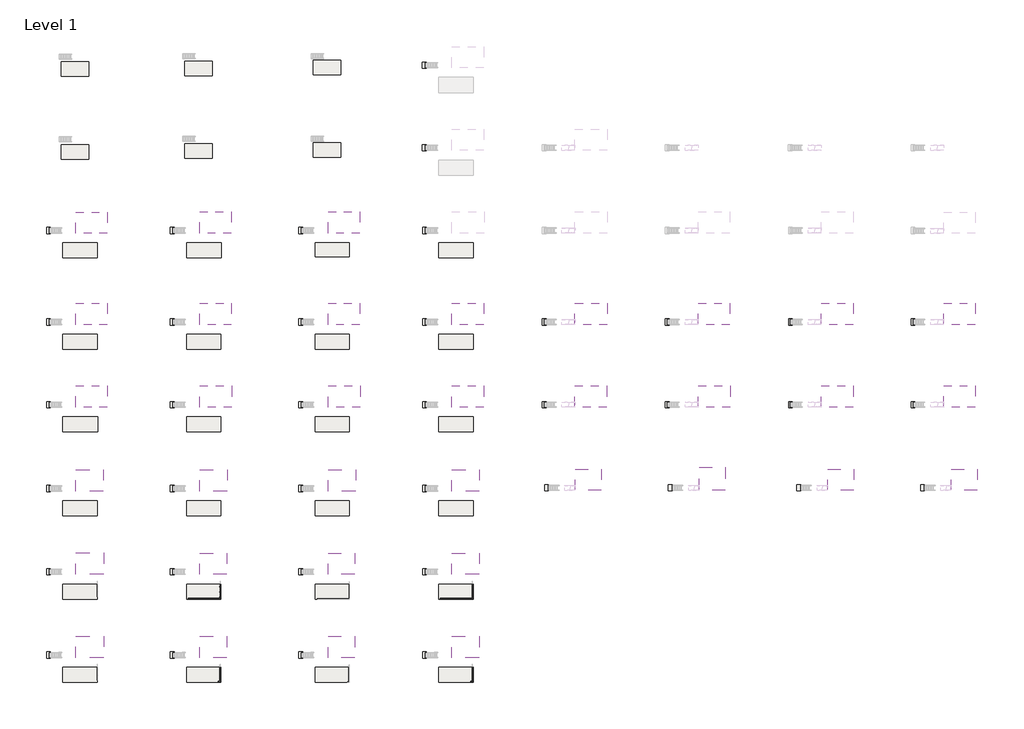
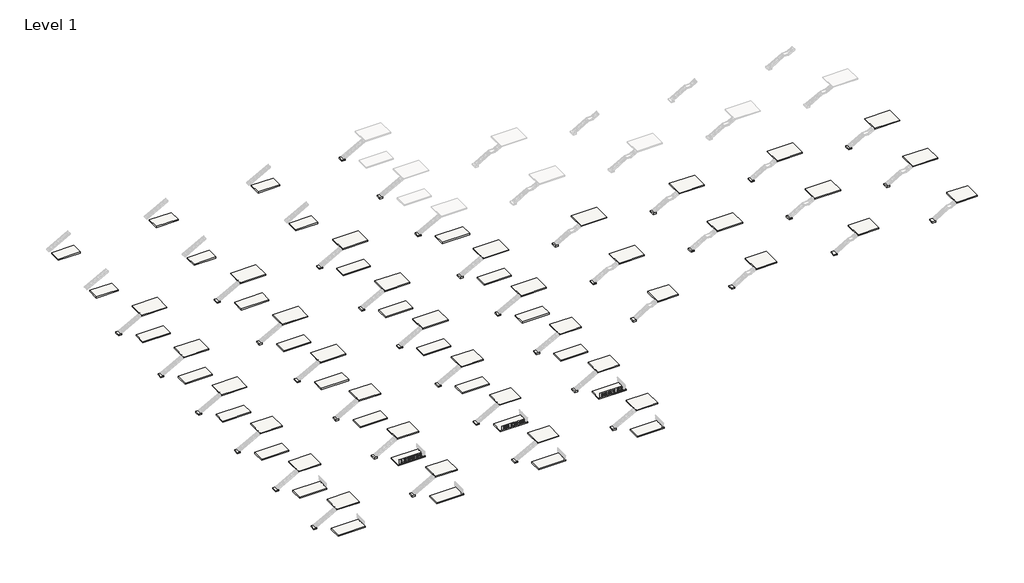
# One storey, part 1 of 21: 103 slabs.
"""IFC4 building model written with IfcOpenShell, lengths in millimetres."""

from ifc_helpers import new_model, si_unit, frame, origin, place, context, project, spatial, polyline, outline, extrude, element, save

model = new_model("IFC4")

# Units and contexts
model_context = context("Model", 3, world=origin())
ifc_project = project(units=[si_unit("LENGTHUNIT", "METRE", prefix="MILLI")], contexts=[model_context])

# Site, building, storey
site = spatial("IfcSite", under=ifc_project)
building = spatial("IfcBuilding", under=site)
storey = spatial("IfcBuildingStorey", under=building, Name="Level 1", Elevation=0.0)

# Slabs
placement = place(None, origin())
element("IfcSlab", 1, ObjectType="Generic", at=placement, inside=storey, context=model_context, shape_type="SweptSolid", body=[
    extrude(outline(polyline([(-2908.0966851, 15795.2395941), (-9164.1164794, 15795.2395941), (-9164.1164794, 19986.2395941), (-2908.0966851, 19986.2395941), (-2908.0966851, 15795.2395941)])), frame((0.0, 0.0, 2818.13), z_axis=(0.0, 0.0, 1.0), x_axis=(1.0, 0.0, 0.0)), (0.0, 0.0, 1.0), 229.87),
])
element("IfcSlab", 2, ObjectType="Generic", at=placement, inside=storey, context=model_context, shape_type="SweptSolid", body=[
    extrude(outline(polyline([(21837.4572927, 15795.2395941), (15512.8572927, 15795.2395941), (15512.8572927, 20018.7009998), (21837.4572927, 20018.7009998), (21837.4572927, 15795.2395941)])), frame((0.0, 0.0, 2818.13), z_axis=(0.0, 0.0, 1.0), x_axis=(1.0, 0.0, 0.0)), (0.0, 0.0, 1.0), 229.87),
])
element("IfcSlab", 3, ObjectType="Generic", at=placement, inside=storey, context=model_context, shape_type="SweptSolid", body=[
    extrude(outline(polyline([(47448.5953871, 15795.2395941), (41116.0572927, 15795.2395941), (41116.0572927, 20018.7009998), (47448.5953871, 20018.7009998), (47448.5953871, 15795.2395941)])), frame((0.0, 0.0, 2818.13), z_axis=(0.0, 0.0, 1.0), x_axis=(1.0, 0.0, 0.0)), (0.0, 0.0, 1.0), 229.87),
])
element("IfcSlab", 4, ObjectType="Generic", at=placement, inside=storey, context=model_context, shape_type="SweptSolid", body=[
    extrude(outline(polyline([(-3677.7164794, -35644.281782), (-9164.1164794, -35644.281782), (-9164.1164794, -31370.0203763), (-3677.7164794, -31370.0203763), (-3677.7164794, -35644.281782)])), frame((0.0, 0.0, 2818.13), z_axis=(0.0, 0.0, 1.0), x_axis=(1.0, 0.0, 0.0)), (0.0, 0.0, 1.0), 229.87),
])
element("IfcSlab", 5, ObjectType="Generic", at=placement, inside=storey, context=model_context, shape_type="SweptSolid", body=[
    extrude(outline(polyline([(46653.2578871, -35644.281782), (41116.0572927, -35644.281782), (41116.0572927, -31420.8203763), (46653.2578871, -31420.8203763), (46653.2578871, -35644.281782)])), frame((0.0, 0.0, 2818.13), z_axis=(0.0, 0.0, 1.0), x_axis=(1.0, 0.0, 0.0)), (0.0, 0.0, 1.0), 229.87),
])
element("IfcSlab", 6, ObjectType="Generic", at=placement, inside=storey, context=model_context, shape_type="SweptSolid", body=[
    extrude(outline(polyline([(20999.2572927, -35644.281782), (15512.8572927, -35644.281782), (15512.8572927, -31420.8203763), (20999.2572927, -31420.8203763), (20999.2572927, -35644.281782)])), frame((0.0, 0.0, 2818.13), z_axis=(0.0, 0.0, 1.0), x_axis=(1.0, 0.0, 0.0)), (0.0, 0.0, 1.0), 229.87),
])
element("IfcSlab", 7, ObjectType="Generic", at=placement, inside=storey, context=model_context, shape_type="SweptSolid", body=[
    extrude(outline(polyline([(-2909.3666851, -2451.5855758), (-9164.1164794, -2451.5855758), (-9164.1164794, 1816.6052299), (-2909.3666851, 1816.6052299), (-2909.3666851, -2451.5855758)])), frame((0.0, 0.0, 2818.13), z_axis=(0.0, 0.0, 1.0), x_axis=(1.0, 0.0, 0.0)), (0.0, 0.0, 1.0), 229.87),
])
element("IfcSlab", 8, ObjectType="Generic", at=placement, inside=storey, context=model_context, shape_type="SweptSolid", body=[
    extrude(outline(polyline([(47453.3572927, -2451.5855758), (41116.0572927, -2451.5855758), (41116.0572927, 1771.8758299), (47453.3572927, 1771.8758299), (47453.3572927, -2451.5855758)])), frame((0.0, 0.0, 2818.13), z_axis=(0.0, 0.0, 1.0), x_axis=(1.0, 0.0, 0.0)), (0.0, 0.0, 1.0), 229.87),
])
element("IfcSlab", 9, ObjectType="Generic", at=placement, inside=storey, context=model_context, shape_type="SweptSolid", body=[
    extrude(outline(polyline([(21862.8572927, -2451.5855758), (15512.8572927, -2451.5855758), (15512.8572927, 1771.8758299), (21862.8572927, 1771.8758299), (21862.8572927, -2451.5855758)])), frame((0.0, 0.0, 2818.13), z_axis=(0.0, 0.0, 1.0), x_axis=(1.0, 0.0, 0.0)), (0.0, 0.0, 1.0), 229.87),
])
element("IfcSlab", 10, ObjectType="Generic", at=placement, inside=storey, context=model_context, shape_type="SweptSolid", body=[
    extrude(outline(polyline([(-2909.3666851, -18919.4990002), (-9164.1164794, -18919.4990002), (-9164.1164794, -14651.3081945), (-2909.3666851, -14651.3081945), (-2909.3666851, -18919.4990002)])), frame((0.0, 0.0, 2818.13), z_axis=(0.0, 0.0, 1.0), x_axis=(1.0, 0.0, 0.0)), (0.0, 0.0, 1.0), 229.87),
])
element("IfcSlab", 11, ObjectType="Generic", at=placement, inside=storey, context=model_context, shape_type="SweptSolid", body=[
    extrude(outline(polyline([(47516.8572927, -18919.4990002), (41116.0572927, -18919.4990002), (41116.0572927, -14696.0375945), (47516.8572927, -14696.0375945), (47516.8572927, -18919.4990002)])), frame((0.0, 0.0, 2818.13), z_axis=(0.0, 0.0, 1.0), x_axis=(1.0, 0.0, 0.0)), (0.0, 0.0, 1.0), 229.87),
])
element("IfcSlab", 12, ObjectType="Generic", at=placement, inside=storey, context=model_context, shape_type="SweptSolid", body=[
    extrude(outline(polyline([(21913.6572927, -18919.4990002), (15512.8572927, -18919.4990002), (15512.8572927, -14696.0375945), (21913.6572927, -14696.0375945), (21913.6572927, -18919.4990002)])), frame((0.0, 0.0, 2818.13), z_axis=(0.0, 0.0, 1.0), x_axis=(1.0, 0.0, 0.0)), (0.0, 0.0, 1.0), 229.87),
])
element("IfcSlab", 13, ObjectType="Generic", at=placement, inside=storey, context=model_context, shape_type="SweptSolid", body=[
    extrude(outline(polyline([(-3630.629515, -52244.4426165), (-9164.1164794, -52244.4426165), (-9164.1164794, -47976.2518108), (-3630.629515, -47976.2518108), (-3630.629515, -52244.4426165)])), frame((0.0, 0.0, 2818.13), z_axis=(0.0, 0.0, 1.0), x_axis=(1.0, 0.0, 0.0)), (0.0, 0.0, 1.0), 229.87),
])
element("IfcSlab", 14, ObjectType="Generic", at=placement, inside=storey, context=model_context, shape_type="SweptSolid", body=[
    extrude(outline(polyline([(46419.9118702, -52244.4426165), (41116.0572927, -52244.4426165), (41116.0572927, -48020.9812108), (46419.9118702, -48020.9812108), (46419.9118702, -52244.4426165)])), frame((0.0, 0.0, 2818.13), z_axis=(0.0, 0.0, 1.0), x_axis=(1.0, 0.0, 0.0)), (0.0, 0.0, 1.0), 229.87),
])
element("IfcSlab", 15, ObjectType="Generic", at=placement, inside=storey, context=model_context, shape_type="SweptSolid", body=[
    extrude(outline(polyline([(20931.0118702, -52244.4426165), (15512.8572927, -52244.4426165), (15512.8572927, -48020.9812108), (20931.0118702, -48020.9812108), (20931.0118702, -52244.4426165)])), frame((0.0, 0.0, 2818.13), z_axis=(0.0, 0.0, 1.0), x_axis=(1.0, 0.0, 0.0)), (0.0, 0.0, 1.0), 229.87),
])
element("IfcSlab", 16, ObjectType="Generic", at=placement, inside=storey, context=model_context, shape_type="SweptSolid", body=[
    extrude(outline(polyline([(71279.4310647, -35644.281782), (65793.0310647, -35644.281782), (65793.0310647, -31420.8203763), (71279.4310647, -31420.8203763), (71279.4310647, -35644.281782)])), frame((0.0, 0.0, 2818.13), z_axis=(0.0, 0.0, 1.0), x_axis=(1.0, 0.0, 0.0)), (0.0, 0.0, 1.0), 229.87),
])
element("IfcSlab", 17, ObjectType="Generic", at=placement, inside=storey, context=model_context, shape_type="SweptSolid", body=[
    extrude(outline(polyline([(72193.8310647, -2451.5855758), (65793.0310647, -2451.5855758), (65793.0310647, 1771.8758299), (72193.8310647, 1771.8758299), (72193.8310647, -2451.5855758)])), frame((0.0, 0.0, 2818.13), z_axis=(0.0, 0.0, 1.0), x_axis=(1.0, 0.0, 0.0)), (0.0, 0.0, 1.0), 229.87),
])
element("IfcSlab", 18, ObjectType="Generic", at=placement, inside=storey, context=model_context, shape_type="SweptSolid", body=[
    extrude(outline(polyline([(72168.4310647, -18919.4990002), (65793.0310647, -18919.4990002), (65793.0310647, -14696.0375945), (72168.4310647, -14696.0375945), (72168.4310647, -18919.4990002)])), frame((0.0, 0.0, 2818.13), z_axis=(0.0, 0.0, 1.0), x_axis=(1.0, 0.0, 0.0)), (0.0, 0.0, 1.0), 229.87),
])
element("IfcSlab", 19, ObjectType="Generic", at=placement, inside=storey, context=model_context, shape_type="SweptSolid", body=[
    extrude(outline(polyline([(71209.5810647, -52244.4426165), (65793.0310647, -52244.4426165), (65793.0310647, -48020.9812108), (71209.5810647, -48020.9812108), (71209.5810647, -52244.4426165)])), frame((0.0, 0.0, 2818.13), z_axis=(0.0, 0.0, 1.0), x_axis=(1.0, 0.0, 0.0)), (0.0, 0.0, 1.0), 229.87),
])
element("IfcSlab", 20, ObjectType="Generic", at=placement, inside=storey, context=model_context, shape_type="SweptSolid", body=[
    extrude(outline(polyline([(-3630.629515, -68866.2904155), (-9164.1164794, -68866.2904155), (-9164.1164794, -64576.4126454), (-3630.629515, -64576.4126454), (-3630.629515, -68866.2904155)])), frame((0.0, 0.0, 2818.13), z_axis=(0.0, 0.0, 1.0), x_axis=(1.0, 0.0, 0.0)), (0.0, 0.0, 1.0), 229.87),
])
element("IfcSlab", 21, ObjectType="Generic", at=placement, inside=storey, context=model_context, shape_type="SweptSolid", body=[
    extrude(outline(polyline([(46419.9118702, -68844.6034511), (41116.0572927, -68844.6034511), (41116.0572927, -64621.1420454), (46419.9118702, -64621.1420454), (46419.9118702, -68844.6034511)])), frame((0.0, 0.0, 2818.13), z_axis=(0.0, 0.0, 1.0), x_axis=(1.0, 0.0, 0.0)), (0.0, 0.0, 1.0), 229.87),
])
element("IfcSlab", 22, ObjectType="Generic", at=placement, inside=storey, context=model_context, shape_type="SweptSolid", body=[
    extrude(outline(polyline([(20931.0118702, -68844.6034511), (15512.8572927, -68844.6034511), (15512.8572927, -64621.1420454), (20931.0118702, -64621.1420454), (20931.0118702, -68844.6034511)])), frame((0.0, 0.0, 2818.13), z_axis=(0.0, 0.0, 1.0), x_axis=(1.0, 0.0, 0.0)), (0.0, 0.0, 1.0), 229.87),
])
element("IfcSlab", 23, ObjectType="Generic", at=placement, inside=storey, context=model_context, shape_type="SweptSolid", body=[
    extrude(outline(polyline([(71209.5810647, -68844.6034511), (65793.0310647, -68844.6034511), (65793.0310647, -64621.1420454), (71209.5810647, -64621.1420454), (71209.5810647, -68844.6034511)])), frame((0.0, 0.0, 2818.13), z_axis=(0.0, 0.0, 1.0), x_axis=(1.0, 0.0, 0.0)), (0.0, 0.0, 1.0), 229.87),
])
element("IfcSlab", 24, ObjectType="Generic", at=placement, inside=storey, context=model_context, shape_type="SweptSolid", body=[
    extrude(outline(polyline([(96743.8048368, -2451.5855758), (90343.0048368, -2451.5855758), (90343.0048368, 1771.8758299), (96743.8048368, 1771.8758299), (96743.8048368, -2451.5855758)])), frame((0.0, 0.0, 2818.13), z_axis=(0.0, 0.0, 1.0), x_axis=(1.0, 0.0, 0.0)), (0.0, 0.0, 1.0), 229.87),
])
element("IfcSlab", 25, ObjectType="Generic", at=placement, inside=storey, context=model_context, shape_type="SweptSolid", body=[
    extrude(outline(polyline([(96718.4048368, -18919.4990002), (90343.0048368, -18919.4990002), (90343.0048368, -14696.0375945), (96718.4048368, -14696.0375945), (96718.4048368, -18919.4990002)])), frame((0.0, 0.0, 2818.13), z_axis=(0.0, 0.0, 1.0), x_axis=(1.0, 0.0, 0.0)), (0.0, 0.0, 1.0), 229.87),
])
element("IfcSlab", 26, ObjectType="Generic", at=placement, inside=storey, context=model_context, shape_type="SweptSolid", body=[
    extrude(outline(polyline([(121230.2786089, -2451.5855758), (114892.9786089, -2451.5855758), (114892.9786089, 1771.8758299), (121230.2786089, 1771.8758299), (121230.2786089, -2451.5855758)])), frame((0.0, 0.0, 2818.13), z_axis=(0.0, 0.0, 1.0), x_axis=(1.0, 0.0, 0.0)), (0.0, 0.0, 1.0), 229.87),
])
element("IfcSlab", 27, ObjectType="Generic", at=placement, inside=storey, context=model_context, shape_type="SweptSolid", body=[
    extrude(outline(polyline([(121293.7786089, -18919.4990002), (114892.9786089, -18919.4990002), (114892.9786089, -14696.0375945), (121293.7786089, -14696.0375945), (121293.7786089, -18919.4990002)])), frame((0.0, 0.0, 2818.13), z_axis=(0.0, 0.0, 1.0), x_axis=(1.0, 0.0, 0.0)), (0.0, 0.0, 1.0), 229.87),
])
element("IfcSlab", 28, ObjectType="Generic", at=placement, inside=storey, context=model_context, shape_type="SweptSolid", body=[
    extrude(outline(polyline([(145792.9523809, -2451.5855758), (139442.9523809, -2451.5855758), (139442.9523809, 1771.8758299), (145792.9523809, 1771.8758299), (145792.9523809, -2451.5855758)])), frame((0.0, 0.0, 2818.13), z_axis=(0.0, 0.0, 1.0), x_axis=(1.0, 0.0, 0.0)), (0.0, 0.0, 1.0), 229.87),
])
element("IfcSlab", 29, ObjectType="Generic", at=placement, inside=storey, context=model_context, shape_type="SweptSolid", body=[
    extrude(outline(polyline([(145843.7523809, -18919.4990002), (139442.9523809, -18919.4990002), (139442.9523809, -14696.0375945), (145843.7523809, -14696.0375945), (145843.7523809, -18919.4990002)])), frame((0.0, 0.0, 2818.13), z_axis=(0.0, 0.0, 1.0), x_axis=(1.0, 0.0, 0.0)), (0.0, 0.0, 1.0), 229.87),
])
element("IfcSlab", 30, ObjectType="Generic", at=placement, inside=storey, context=model_context, shape_type="SweptSolid", body=[
    extrude(outline(polyline([(170143.5809011, -2451.5855758), (163888.8311068, -2451.5855758), (163888.8311068, 1816.6052299), (170143.5809011, 1816.6052299), (170143.5809011, -2451.5855758)])), frame((0.0, 0.0, 2818.13), z_axis=(0.0, 0.0, 1.0), x_axis=(1.0, 0.0, 0.0)), (0.0, 0.0, 1.0), 229.87),
])
element("IfcSlab", 31, ObjectType="Generic", at=placement, inside=storey, context=model_context, shape_type="SweptSolid", body=[
    extrude(outline(polyline([(170143.5809011, -18919.4990002), (163888.8311068, -18919.4990002), (163888.8311068, -14651.3081945), (170143.5809011, -14651.3081945), (170143.5809011, -18919.4990002)])), frame((0.0, 0.0, 2818.13), z_axis=(0.0, 0.0, 1.0), x_axis=(1.0, 0.0, 0.0)), (0.0, 0.0, 1.0), 229.87),
])
element("IfcSlab", 32, ObjectType="Generic - 7 3/4\"", at=placement, inside=storey, context=model_context, shape_type="SweptSolid", body=[
    extrude(outline(polyline([(-4933.3882474, 10855.2487388), (-11740.5882474, 10855.2487388), (-11740.5882474, 13852.4487388), (-4933.3882474, 13852.4487388), (-4933.3882474, 10855.2487388)])), frame((0.0, 0.0, -296.7736), z_axis=(0.0, 0.0, 1.0), x_axis=(1.0, 0.0, 0.0)), (0.0, 0.0, 1.0), 296.7736),
])
element("IfcSlab", 33, ObjectType="Generic - 7 3/4\"", at=placement, inside=storey, context=model_context, shape_type="SweptSolid", body=[
    extrude(outline(polyline([(19819.7855247, 10855.2487388), (12936.3855247, 10855.2487388), (12936.3855247, 13852.4487388), (19819.7855247, 13852.4487388), (19819.7855247, 10855.2487388)])), frame((0.0, 0.0, -296.7736), z_axis=(0.0, 0.0, 1.0), x_axis=(1.0, 0.0, 0.0)), (0.0, 0.0, 1.0), 296.7736),
])
element("IfcSlab", 34, ObjectType="Generic - 7 3/4\"", at=placement, inside=storey, context=model_context, shape_type="SweptSolid", body=[
    extrude(outline(polyline([(45346.7861192, 11058.4481443), (38539.5855247, 11058.4481443), (38539.5855247, 13852.4487388), (45346.7861192, 13852.4487388), (45346.7861192, 11058.4481443)])), frame((0.0, 0.0, -296.7736), z_axis=(0.0, 0.0, 1.0), x_axis=(1.0, 0.0, 0.0)), (0.0, 0.0, 1.0), 296.7736),
])
element("IfcSlab", 35, ObjectType="Generic - 7 3/4\"", at=placement, inside=storey, context=model_context, shape_type="SweptSolid", body=[
    extrude(outline(polyline([(-4933.3882474, -40584.2726373), (-11740.5882474, -40584.2726373), (-11740.5882474, -37587.0726373), (-4933.3882474, -37587.0726373), (-4933.3882474, -40584.2726373)])), frame((0.0, 0.0, -296.7736), z_axis=(0.0, 0.0, 1.0), x_axis=(1.0, 0.0, 0.0)), (0.0, 0.0, 1.0), 296.7736),
])
element("IfcSlab", 36, ObjectType="Generic - 7 3/4\"", at=placement, inside=storey, context=model_context, shape_type="SweptSolid", body=[
    extrude(outline(polyline([(45346.7855247, -40584.2726373), (38539.5855247, -40584.2726373), (38539.5855247, -37587.0726373), (45346.7855247, -37587.0726373), (45346.7855247, -40584.2726373)])), frame((0.0, 0.0, -296.7736), z_axis=(0.0, 0.0, 1.0), x_axis=(1.0, 0.0, 0.0)), (0.0, 0.0, 1.0), 296.7736),
])
element("IfcSlab", 37, ObjectType="Generic - 7 3/4\"", at=placement, inside=storey, context=model_context, shape_type="SweptSolid", body=[
    extrude(outline(polyline([(19743.5855247, -40584.2726373), (12936.3855247, -40584.2726373), (12936.3855247, -37587.0726373), (19743.5855247, -37587.0726373), (19743.5855247, -40584.2726373)])), frame((0.0, 0.0, -296.7736), z_axis=(0.0, 0.0, 1.0), x_axis=(1.0, 0.0, 0.0)), (0.0, 0.0, 1.0), 296.7736),
])
element("IfcSlab", 38, ObjectType="Generic - 7 3/4\"", at=placement, inside=storey, context=model_context, shape_type="SweptSolid", body=[
    extrude(outline(polyline([(-4933.3882474, -7391.5764311), (-11740.5882474, -7391.5764311), (-11740.5882474, -4394.3764311), (-4933.3882474, -4394.3764311), (-4933.3882474, -7391.5764311)])), frame((0.0, 0.0, -296.7736), z_axis=(0.0, 0.0, 1.0), x_axis=(1.0, 0.0, 0.0)), (0.0, 0.0, 1.0), 296.7736),
])
element("IfcSlab", 39, ObjectType="Generic - 7 3/4\"", at=placement, inside=storey, context=model_context, shape_type="SweptSolid", body=[
    extrude(outline(polyline([(45346.7855247, -7391.5764311), (38539.5855247, -7391.5764311), (38539.5855247, -4394.3764311), (45346.7855247, -4394.3764311), (45346.7855247, -7391.5764311)])), frame((0.0, 0.0, -296.7736), z_axis=(0.0, 0.0, 1.0), x_axis=(1.0, 0.0, 0.0)), (0.0, 0.0, 1.0), 296.7736),
])
element("IfcSlab", 40, ObjectType="Generic - 7 3/4\"", at=placement, inside=storey, context=model_context, shape_type="SweptSolid", body=[
    extrude(outline(polyline([(19743.5855247, -7391.5764311), (12936.3855247, -7391.5764311), (12936.3855247, -4394.3764311), (19743.5855247, -4394.3764311), (19743.5855247, -7391.5764311)])), frame((0.0, 0.0, -296.7736), z_axis=(0.0, 0.0, 1.0), x_axis=(1.0, 0.0, 0.0)), (0.0, 0.0, 1.0), 296.7736),
])
element("IfcSlab", 41, ObjectType="Generic - 7 3/4\"", at=placement, inside=storey, context=model_context, shape_type="SweptSolid", body=[
    extrude(outline(polyline([(-4831.7884531, -23859.4898555), (-11740.5882474, -23859.4898555), (-11740.5882474, -20862.2898555), (-4831.7884531, -20862.2898555), (-4831.7884531, -23859.4898555)])), frame((0.0, 0.0, -296.7736), z_axis=(0.0, 0.0, 1.0), x_axis=(1.0, 0.0, 0.0)), (0.0, 0.0, 1.0), 296.7736),
])
element("IfcSlab", 42, ObjectType="Generic - 7 3/4\"", at=placement, inside=storey, context=model_context, shape_type="SweptSolid", body=[
    extrude(outline(polyline([(45346.7855247, -23859.4898555), (38539.5855247, -23859.4898555), (38539.5855247, -20862.2898555), (45346.7855247, -20862.2898555), (45346.7855247, -23859.4898555)])), frame((0.0, 0.0, -296.7736), z_axis=(0.0, 0.0, 1.0), x_axis=(1.0, 0.0, 0.0)), (0.0, 0.0, 1.0), 296.7736),
])
element("IfcSlab", 43, ObjectType="Generic - 7 3/4\"", at=placement, inside=storey, context=model_context, shape_type="SweptSolid", body=[
    extrude(outline(polyline([(19743.5855247, -23859.4898555), (12936.3855247, -23859.4898555), (12936.3855247, -20862.2898555), (19743.5855247, -20862.2898555), (19743.5855247, -23859.4898555)])), frame((0.0, 0.0, -296.7736), z_axis=(0.0, 0.0, 1.0), x_axis=(1.0, 0.0, 0.0)), (0.0, 0.0, 1.0), 296.7736),
])
element("IfcSlab", 44, ObjectType="Generic - 7 3/4\"", at=placement, inside=storey, context=model_context, shape_type="SweptSolid", body=[
    extrude(outline(polyline([(-4933.3882474, -57184.4334719), (-11740.5882474, -57184.4334719), (-11740.5882474, -54187.2334719), (-4933.3882474, -54187.2334719), (-4933.3882474, -57184.4334719)])), frame((0.0, 0.0, -296.7736), z_axis=(0.0, 0.0, 1.0), x_axis=(1.0, 0.0, 0.0)), (0.0, 0.0, 1.0), 296.7736),
])
element("IfcSlab", 45, ObjectType="Generic - 7 3/4\"", at=placement, inside=storey, context=model_context, shape_type="SweptSolid", body=[
    extrude(outline(polyline([(45346.7855247, -57184.4334719), (38539.5855247, -57184.4334719), (38539.5855247, -54187.2334719), (45346.7855247, -54187.2334719), (45346.7855247, -57184.4334719)])), frame((0.0, 0.0, -296.7736), z_axis=(0.0, 0.0, 1.0), x_axis=(1.0, 0.0, 0.0)), (0.0, 0.0, 1.0), 296.7736),
])
element("IfcSlab", 46, ObjectType="Generic - 7 3/4\"", at=placement, inside=storey, context=model_context, shape_type="SweptSolid", body=[
    extrude(outline(polyline([(19743.5855247, -57184.4334719), (12936.3855247, -57184.4334719), (12936.3855247, -54187.2334719), (19743.5855247, -54187.2334719), (19743.5855247, -57184.4334719)])), frame((0.0, 0.0, -296.7736), z_axis=(0.0, 0.0, 1.0), x_axis=(1.0, 0.0, 0.0)), (0.0, 0.0, 1.0), 296.7736),
])
element("IfcSlab", 47, ObjectType="Generic - 7 3/4\"", at=placement, inside=storey, context=model_context, shape_type="SweptSolid", body=[
    extrude(outline(polyline([(70099.9592968, 10848.2093665), (63216.5592968, 10848.2093665), (63216.5592968, 13852.4487388), (70099.9592968, 13852.4487388), (70099.9592968, 10848.2093665)])), frame((0.0, 0.0, -296.7736), z_axis=(0.0, 0.0, 1.0), x_axis=(1.0, 0.0, 0.0)), (0.0, 0.0, 1.0), 296.7736),
])
element("IfcSlab", 48, ObjectType="Generic - 7 3/4\"", at=placement, inside=storey, context=model_context, shape_type="SweptSolid", body=[
    extrude(outline(polyline([(70023.7592968, -40584.2726373), (63216.5592968, -40584.2726373), (63216.5592968, -37587.0726373), (70023.7592968, -37587.0726373), (70023.7592968, -40584.2726373)])), frame((0.0, 0.0, -296.7736), z_axis=(0.0, 0.0, 1.0), x_axis=(1.0, 0.0, 0.0)), (0.0, 0.0, 1.0), 296.7736),
])
element("IfcSlab", 49, ObjectType="Generic - 7 3/4\"", at=placement, inside=storey, context=model_context, shape_type="SweptSolid", body=[
    extrude(outline(polyline([(70023.7592968, -7391.5764311), (63216.5592968, -7391.5764311), (63216.5592968, -4394.3764311), (70023.7592968, -4394.3764311), (70023.7592968, -7391.5764311)])), frame((0.0, 0.0, -296.7736), z_axis=(0.0, 0.0, 1.0), x_axis=(1.0, 0.0, 0.0)), (0.0, 0.0, 1.0), 296.7736),
])
element("IfcSlab", 50, ObjectType="Generic - 7 3/4\"", at=placement, inside=storey, context=model_context, shape_type="SweptSolid", body=[
    extrude(outline(polyline([(70023.7592968, -23859.4898555), (63216.5592968, -23859.4898555), (63216.5592968, -20862.2898555), (70023.7592968, -20862.2898555), (70023.7592968, -23859.4898555)])), frame((0.0, 0.0, -296.7736), z_axis=(0.0, 0.0, 1.0), x_axis=(1.0, 0.0, 0.0)), (0.0, 0.0, 1.0), 296.7736),
])
element("IfcSlab", 51, ObjectType="Generic - 7 3/4\"", at=placement, inside=storey, context=model_context, shape_type="SweptSolid", body=[
    extrude(outline(polyline([(70023.7592968, -57184.4334719), (63216.5592968, -57184.4334719), (63216.5592968, -54187.2334719), (70023.7592968, -54187.2334719), (70023.7592968, -57184.4334719)])), frame((0.0, 0.0, -296.7736), z_axis=(0.0, 0.0, 1.0), x_axis=(1.0, 0.0, 0.0)), (0.0, 0.0, 1.0), 296.7736),
])
element("IfcSlab", 52, ObjectType="Generic - 7 3/4\"", at=placement, inside=storey, context=model_context, shape_type="SweptSolid", body=[
    extrude(outline(polyline([(-14244.2503044, -19021.0990002), (-15006.2503044, -19021.0990002), (-15006.2503044, -17801.8990002), (-14244.2503044, -17801.8990002), (-14244.2503044, -19021.0990002)])), frame((0.0, 0.0, -296.7736), z_axis=(0.0, 0.0, 1.0), x_axis=(1.0, 0.0, 0.0)), (0.0, 0.0, 1.0), 296.7736),
])
element("IfcSlab", 53, ObjectType="Generic - 7 3/4\"", at=placement, inside=storey, context=model_context, shape_type="SweptSolid", body=[
    extrude(outline(polyline([(-14244.2503044, -2553.1855758), (-15006.2503044, -2553.1855758), (-15006.2503044, -1333.9855758), (-14244.2503044, -1333.9855758), (-14244.2503044, -2553.1855758)])), frame((0.0, 0.0, -296.7736), z_axis=(0.0, 0.0, 1.0), x_axis=(1.0, 0.0, 0.0)), (0.0, 0.0, 1.0), 296.7736),
])
element("IfcSlab", 54, ObjectType="Generic - 7 3/4\"", at=placement, inside=storey, context=model_context, shape_type="SweptSolid", body=[
    extrude(outline(polyline([(-14244.2503044, 15693.6395941), (-15006.2503044, 15693.6395941), (-15006.2503044, 16912.8395941), (-14244.2503044, 16912.8395941), (-14244.2503044, 15693.6395941)])), frame((0.0, 0.0, -296.7736), z_axis=(0.0, 0.0, 1.0), x_axis=(1.0, 0.0, 0.0)), (0.0, 0.0, 1.0), 296.7736),
])
element("IfcSlab", 55, ObjectType="Generic - 7 3/4\"", at=placement, inside=storey, context=model_context, shape_type="SweptSolid", body=[
    extrude(outline(polyline([(10432.7234676, 15693.6395941), (9670.7234676, 15693.6395941), (9670.7234676, 16912.8395941), (10432.7234676, 16912.8395941), (10432.7234676, 15693.6395941)])), frame((0.0, 0.0, -296.7736), z_axis=(0.0, 0.0, 1.0), x_axis=(1.0, 0.0, 0.0)), (0.0, 0.0, 1.0), 296.7736),
])
element("IfcSlab", 56, ObjectType="Generic - 7 3/4\"", at=placement, inside=storey, context=model_context, shape_type="SweptSolid", body=[
    extrude(outline(polyline([(36035.9234676, 15693.6395941), (35273.9234676, 15693.6395941), (35273.9234676, 16912.8395941), (36035.9234676, 16912.8395941), (36035.9234676, 15693.6395941)])), frame((0.0, 0.0, -296.7736), z_axis=(0.0, 0.0, 1.0), x_axis=(1.0, 0.0, 0.0)), (0.0, 0.0, 1.0), 296.7736),
])
element("IfcSlab", 57, ObjectType="Generic - 7 3/4\"", at=placement, inside=storey, context=model_context, shape_type="SweptSolid", body=[
    extrude(outline(polyline([(60712.8972397, 15693.6395941), (59950.8972397, 15693.6395941), (59950.8972397, 16912.8395941), (60712.8972397, 16912.8395941), (60712.8972397, 15693.6395941)])), frame((0.0, 0.0, -296.7736), z_axis=(0.0, 0.0, 1.0), x_axis=(1.0, 0.0, 0.0)), (0.0, 0.0, 1.0), 296.7736),
])
element("IfcSlab", 58, ObjectType="Generic - 7 3/4\"", at=placement, inside=storey, context=model_context, shape_type="SweptSolid", body=[
    extrude(outline(polyline([(10432.7234676, -2553.1855758), (9670.7234676, -2553.1855758), (9670.7234676, -1333.9855758), (10432.7234676, -1333.9855758), (10432.7234676, -2553.1855758)])), frame((0.0, 0.0, -296.7736), z_axis=(0.0, 0.0, 1.0), x_axis=(1.0, 0.0, 0.0)), (0.0, 0.0, 1.0), 296.7736),
])
element("IfcSlab", 59, ObjectType="Generic - 7 3/4\"", at=placement, inside=storey, context=model_context, shape_type="SweptSolid", body=[
    extrude(outline(polyline([(36035.9234676, -2553.1855758), (35273.9234676, -2553.1855758), (35273.9234676, -1333.9855758), (36035.9234676, -1333.9855758), (36035.9234676, -2553.1855758)])), frame((0.0, 0.0, -296.7736), z_axis=(0.0, 0.0, 1.0), x_axis=(1.0, 0.0, 0.0)), (0.0, 0.0, 1.0), 296.7736),
])
element("IfcSlab", 60, ObjectType="Generic - 7 3/4\"", at=placement, inside=storey, context=model_context, shape_type="SweptSolid", body=[
    extrude(outline(polyline([(60712.8972397, -2553.1855758), (59950.8972397, -2553.1855758), (59950.8972397, -1333.9855758), (60712.8972397, -1333.9855758), (60712.8972397, -2553.1855758)])), frame((0.0, 0.0, -296.7736), z_axis=(0.0, 0.0, 1.0), x_axis=(1.0, 0.0, 0.0)), (0.0, 0.0, 1.0), 296.7736),
])
element("IfcSlab", 61, ObjectType="Generic - 7 3/4\"", at=placement, inside=storey, context=model_context, shape_type="SweptSolid", body=[
    extrude(outline(polyline([(10432.7234676, -19021.0990002), (9670.7234676, -19021.0990002), (9670.7234676, -17801.8990002), (10432.7234676, -17801.8990002), (10432.7234676, -19021.0990002)])), frame((0.0, 0.0, -296.7736), z_axis=(0.0, 0.0, 1.0), x_axis=(1.0, 0.0, 0.0)), (0.0, 0.0, 1.0), 296.7736),
])
element("IfcSlab", 62, ObjectType="Generic - 7 3/4\"", at=placement, inside=storey, context=model_context, shape_type="SweptSolid", body=[
    extrude(outline(polyline([(36035.9234676, -19021.0990002), (35273.9234676, -19021.0990002), (35273.9234676, -17801.8990002), (36035.9234676, -17801.8990002), (36035.9234676, -19021.0990002)])), frame((0.0, 0.0, -296.7736), z_axis=(0.0, 0.0, 1.0), x_axis=(1.0, 0.0, 0.0)), (0.0, 0.0, 1.0), 296.7736),
])
element("IfcSlab", 63, ObjectType="Generic - 7 3/4\"", at=placement, inside=storey, context=model_context, shape_type="SweptSolid", body=[
    extrude(outline(polyline([(60712.8972397, -19021.0990002), (59950.8972397, -19021.0990002), (59950.8972397, -17801.8990002), (60712.8972397, -17801.8990002), (60712.8972397, -19021.0990002)])), frame((0.0, 0.0, -296.7736), z_axis=(0.0, 0.0, 1.0), x_axis=(1.0, 0.0, 0.0)), (0.0, 0.0, 1.0), 296.7736),
])
element("IfcSlab", 64, ObjectType="Generic - 7 3/4\"", at=placement, inside=storey, context=model_context, shape_type="SweptSolid", body=[
    extrude(outline(polyline([(-14244.2503044, -35745.881782), (-15006.2503044, -35745.881782), (-15006.2503044, -34526.681782), (-14244.2503044, -34526.681782), (-14244.2503044, -35745.881782)])), frame((0.0, 0.0, -296.7736), z_axis=(0.0, 0.0, 1.0), x_axis=(1.0, 0.0, 0.0)), (0.0, 0.0, 1.0), 296.7736),
])
element("IfcSlab", 65, ObjectType="Generic - 7 3/4\"", at=placement, inside=storey, context=model_context, shape_type="SweptSolid", body=[
    extrude(outline(polyline([(10432.7234676, -35745.881782), (9670.7234676, -35745.881782), (9670.7234676, -34526.681782), (10432.7234676, -34526.681782), (10432.7234676, -35745.881782)])), frame((0.0, 0.0, -296.7736), z_axis=(0.0, 0.0, 1.0), x_axis=(1.0, 0.0, 0.0)), (0.0, 0.0, 1.0), 296.7736),
])
element("IfcSlab", 66, ObjectType="Generic - 7 3/4\"", at=placement, inside=storey, context=model_context, shape_type="SweptSolid", body=[
    extrude(outline(polyline([(36035.9234676, -35745.881782), (35273.9234676, -35745.881782), (35273.9234676, -34526.681782), (36035.9234676, -34526.681782), (36035.9234676, -35745.881782)])), frame((0.0, 0.0, -296.7736), z_axis=(0.0, 0.0, 1.0), x_axis=(1.0, 0.0, 0.0)), (0.0, 0.0, 1.0), 296.7736),
])
element("IfcSlab", 67, ObjectType="Generic - 7 3/4\"", at=placement, inside=storey, context=model_context, shape_type="SweptSolid", body=[
    extrude(outline(polyline([(60712.8972397, -35745.881782), (59950.8972397, -35745.881782), (59950.8972397, -34526.681782), (60712.8972397, -34526.681782), (60712.8972397, -35745.881782)])), frame((0.0, 0.0, -296.7736), z_axis=(0.0, 0.0, 1.0), x_axis=(1.0, 0.0, 0.0)), (0.0, 0.0, 1.0), 296.7736),
])
element("IfcSlab", 68, ObjectType="Generic - 7 3/4\"", at=placement, inside=storey, context=model_context, shape_type="SweptSolid", body=[
    extrude(outline(polyline([(-14244.2503044, -52346.0426165), (-15006.2503044, -52346.0426165), (-15006.2503044, -51126.8426165), (-14244.2503044, -51126.8426165), (-14244.2503044, -52346.0426165)])), frame((0.0, 0.0, -296.7736), z_axis=(0.0, 0.0, 1.0), x_axis=(1.0, 0.0, 0.0)), (0.0, 0.0, 1.0), 296.7736),
])
element("IfcSlab", 69, ObjectType="Generic - 7 3/4\"", at=placement, inside=storey, context=model_context, shape_type="SweptSolid", body=[
    extrude(outline(polyline([(10432.7234676, -52346.0426165), (9670.7234676, -52346.0426165), (9670.7234676, -51126.8426165), (10432.7234676, -51126.8426165), (10432.7234676, -52346.0426165)])), frame((0.0, 0.0, -296.7736), z_axis=(0.0, 0.0, 1.0), x_axis=(1.0, 0.0, 0.0)), (0.0, 0.0, 1.0), 296.7736),
])
element("IfcSlab", 70, ObjectType="Generic - 7 3/4\"", at=placement, inside=storey, context=model_context, shape_type="SweptSolid", body=[
    extrude(outline(polyline([(36035.9234676, -52346.0426165), (35273.9234676, -52346.0426165), (35273.9234676, -51126.8426165), (36035.9234676, -51126.8426165), (36035.9234676, -52346.0426165)])), frame((0.0, 0.0, -296.7736), z_axis=(0.0, 0.0, 1.0), x_axis=(1.0, 0.0, 0.0)), (0.0, 0.0, 1.0), 296.7736),
])
element("IfcSlab", 71, ObjectType="Generic - 7 3/4\"", at=placement, inside=storey, context=model_context, shape_type="SweptSolid", body=[
    extrude(outline(polyline([(60712.8972397, -52346.0426165), (59950.8972397, -52346.0426165), (59950.8972397, -51126.8426165), (60712.8972397, -51126.8426165), (60712.8972397, -52346.0426165)])), frame((0.0, 0.0, -296.7736), z_axis=(0.0, 0.0, 1.0), x_axis=(1.0, 0.0, 0.0)), (0.0, 0.0, 1.0), 296.7736),
])
element("IfcSlab", 72, ObjectType="Generic - 7 3/4\"", at=placement, inside=storey, context=model_context, shape_type="SweptSolid", body=[
    extrude(outline(polyline([(-4933.3882474, -73784.5943064), (-11740.5882474, -73784.5943064), (-11740.5882474, -70787.3943064), (-4933.3882474, -70787.3943064), (-4933.3882474, -73784.5943064)])), frame((0.0, 0.0, -296.7736), z_axis=(0.0, 0.0, 1.0), x_axis=(1.0, 0.0, 0.0)), (0.0, 0.0, 1.0), 296.7736),
])
element("IfcSlab", 73, ObjectType="Generic - 7 3/4\"", at=placement, inside=storey, context=model_context, shape_type="SweptSolid", body=[
    extrude(outline(polyline([(45346.7855247, -73784.5943064), (38539.5855247, -73784.5943064), (38539.5855247, -70787.3943064), (45346.7855247, -70787.3943064), (45346.7855247, -73784.5943064)])), frame((0.0, 0.0, -296.7736), z_axis=(0.0, 0.0, 1.0), x_axis=(1.0, 0.0, 0.0)), (0.0, 0.0, 1.0), 296.7736),
])
element("IfcSlab", 74, ObjectType="Generic - 7 3/4\"", at=placement, inside=storey, context=model_context, shape_type="SweptSolid", body=[
    extrude(outline(polyline([(19743.5855247, -73784.5943064), (12936.3855247, -73784.5943064), (12936.3855247, -70787.3943064), (19743.5855247, -70787.3943064), (19743.5855247, -73784.5943064)])), frame((0.0, 0.0, -296.7736), z_axis=(0.0, 0.0, 1.0), x_axis=(1.0, 0.0, 0.0)), (0.0, 0.0, 1.0), 296.7736),
])
element("IfcSlab", 75, ObjectType="Generic - 7 3/4\"", at=placement, inside=storey, context=model_context, shape_type="SweptSolid", body=[
    extrude(outline(polyline([(70023.7592968, -73784.5943064), (63216.5592968, -73784.5943064), (63216.5592968, -70787.3943064), (70023.7592968, -70787.3943064), (70023.7592968, -73784.5943064)])), frame((0.0, 0.0, -296.7736), z_axis=(0.0, 0.0, 1.0), x_axis=(1.0, 0.0, 0.0)), (0.0, 0.0, 1.0), 296.7736),
])
element("IfcSlab", 76, ObjectType="Generic - 7 3/4\"", at=placement, inside=storey, context=model_context, shape_type="SweptSolid", body=[
    extrude(outline(polyline([(-14244.2503044, -68946.2034511), (-15006.2503044, -68946.2034511), (-15006.2503044, -67727.0034511), (-14244.2503044, -67727.0034511), (-14244.2503044, -68946.2034511)])), frame((0.0, 0.0, -296.7736), z_axis=(0.0, 0.0, 1.0), x_axis=(1.0, 0.0, 0.0)), (0.0, 0.0, 1.0), 296.7736),
])
element("IfcSlab", 77, ObjectType="Generic - 7 3/4\"", at=placement, inside=storey, context=model_context, shape_type="SweptSolid", body=[
    extrude(outline(polyline([(10432.7234676, -68946.2034511), (9670.7234676, -68946.2034511), (9670.7234676, -67727.0034511), (10432.7234676, -67727.0034511), (10432.7234676, -68946.2034511)])), frame((0.0, 0.0, -296.7736), z_axis=(0.0, 0.0, 1.0), x_axis=(1.0, 0.0, 0.0)), (0.0, 0.0, 1.0), 296.7736),
])
element("IfcSlab", 78, ObjectType="Generic - 7 3/4\"", at=placement, inside=storey, context=model_context, shape_type="SweptSolid", body=[
    extrude(outline(polyline([(36035.9234676, -68946.2034511), (35273.9234676, -68946.2034511), (35273.9234676, -67727.0034511), (36035.9234676, -67727.0034511), (36035.9234676, -68946.2034511)])), frame((0.0, 0.0, -296.7736), z_axis=(0.0, 0.0, 1.0), x_axis=(1.0, 0.0, 0.0)), (0.0, 0.0, 1.0), 296.7736),
])
element("IfcSlab", 79, ObjectType="Generic - 7 3/4\"", at=placement, inside=storey, context=model_context, shape_type="SweptSolid", body=[
    extrude(outline(polyline([(60712.8972397, -68946.2034511), (59950.8972397, -68946.2034511), (59950.8972397, -67727.0034511), (60712.8972397, -67727.0034511), (60712.8972397, -68946.2034511)])), frame((0.0, 0.0, -296.7736), z_axis=(0.0, 0.0, 1.0), x_axis=(1.0, 0.0, 0.0)), (0.0, 0.0, 1.0), 296.7736),
])
element("IfcSlab", 80, ObjectType="Generic - 7 3/4\"", at=placement, inside=storey, context=model_context, shape_type="SweptSolid", body=[
    extrude(outline(polyline([(-6588.3265442, 30543.6560295), (-12074.7265442, 30543.6560295), (-12074.7265442, 33439.2560295), (-6588.3265442, 33439.2560295), (-6588.3265442, 30543.6560295)])), frame((0.0, 0.0, -296.7736), z_axis=(0.0, 0.0, 1.0), x_axis=(1.0, 0.0, 0.0)), (0.0, 0.0, 1.0), 296.7736),
])
element("IfcSlab", 81, ObjectType="Generic - 7 3/4\"", at=placement, inside=storey, context=model_context, shape_type="SweptSolid", body=[
    extrude(outline(polyline([(17987.5851176, 30671.6468353), (12501.1851176, 30671.6468353), (12501.1851176, 33567.2468353), (17987.5851176, 33567.2468353), (17987.5851176, 30671.6468353)])), frame((0.0, 0.0, -296.7736), z_axis=(0.0, 0.0, 1.0), x_axis=(1.0, 0.0, 0.0)), (0.0, 0.0, 1.0), 296.7736),
])
element("IfcSlab", 82, ObjectType="Generic - 7 3/4\"", at=placement, inside=storey, context=model_context, shape_type="SweptSolid", body=[
    extrude(outline(polyline([(43652.6976176, 30900.6590933), (38166.2976176, 30900.6590933), (38166.2976176, 33796.2590933), (43652.6976176, 33796.2590933), (43652.6976176, 30900.6590933)])), frame((0.0, 0.0, -296.7736), z_axis=(0.0, 0.0, 1.0), x_axis=(1.0, 0.0, 0.0)), (0.0, 0.0, 1.0), 296.7736),
])
element("IfcSlab", 83, ObjectType="Generic - 7 3/4\"", at=placement, inside=storey, context=model_context, shape_type="SweptSolid", body=[
    extrude(outline(polyline([(60703.0689471, 32179.8812523), (59941.0689471, 32179.8812523), (59941.0689471, 33399.0812523), (60703.0689471, 33399.0812523), (60703.0689471, 32179.8812523)])), frame((0.0, 0.0, -296.7736), z_axis=(0.0, 0.0, 1.0), x_axis=(1.0, 0.0, 0.0)), (0.0, 0.0, 1.0), 296.7736),
])
element("IfcSlab", 84, ObjectType="Generic - 7 3/4\"", at=placement, inside=storey, context=model_context, shape_type="SweptSolid", body=[
    extrude(outline(polyline([(-6588.3265442, 47011.5694539), (-12074.7265442, 47011.5694539), (-12074.7265442, 49907.1694539), (-6588.3265442, 49907.1694539), (-6588.3265442, 47011.5694539)])), frame((0.0, 0.0, -296.7736), z_axis=(0.0, 0.0, 1.0), x_axis=(1.0, 0.0, 0.0)), (0.0, 0.0, 1.0), 296.7736),
])
element("IfcSlab", 85, ObjectType="Generic - 7 3/4\"", at=placement, inside=storey, context=model_context, shape_type="SweptSolid", body=[
    extrude(outline(polyline([(17987.5851176, 47139.5602597), (12501.1851176, 47139.5602597), (12501.1851176, 50035.1602597), (17987.5851176, 50035.1602597), (17987.5851176, 47139.5602597)])), frame((0.0, 0.0, -296.7736), z_axis=(0.0, 0.0, 1.0), x_axis=(1.0, 0.0, 0.0)), (0.0, 0.0, 1.0), 296.7736),
])
element("IfcSlab", 86, ObjectType="Generic - 7 3/4\"", at=placement, inside=storey, context=model_context, shape_type="SweptSolid", body=[
    extrude(outline(polyline([(43652.6976176, 47368.5725177), (38166.2976176, 47368.5725177), (38166.2976176, 50264.1725177), (43652.6976176, 50264.1725177), (43652.6976176, 47368.5725177)])), frame((0.0, 0.0, -296.7736), z_axis=(0.0, 0.0, 1.0), x_axis=(1.0, 0.0, 0.0)), (0.0, 0.0, 1.0), 296.7736),
])
element("IfcSlab", 87, ObjectType="Generic - 7 3/4\"", at=placement, inside=storey, context=model_context, shape_type="SweptSolid", body=[
    extrude(outline(polyline([(60703.0689471, 48647.7946767), (59941.0689471, 48647.7946767), (59941.0689471, 49866.9946767), (60703.0689471, 49866.9946767), (60703.0689471, 48647.7946767)])), frame((0.0, 0.0, -296.7736), z_axis=(0.0, 0.0, 1.0), x_axis=(1.0, 0.0, 0.0)), (0.0, 0.0, 1.0), 296.7736),
])
element("IfcSlab", 88, ObjectType="Generic - 7 3/4\"", at=placement, inside=storey, context=model_context, shape_type="SweptSolid", body=[
    extrude(outline(polyline([(84574.7335615, -2553.1855758), (83812.7335615, -2553.1855758), (83812.7335615, -1333.9855758), (84574.7335615, -1333.9855758), (84574.7335615, -2553.1855758)])), frame((0.0, 0.0, -296.7736), z_axis=(0.0, 0.0, 1.0), x_axis=(1.0, 0.0, 0.0)), (0.0, 0.0, 1.0), 296.7736),
])
element("IfcSlab", 89, ObjectType="Generic - 7 3/4\"", at=placement, inside=storey, context=model_context, shape_type="SweptSolid", body=[
    extrude(outline(polyline([(84574.7335615, -19021.0990002), (83812.7335615, -19021.0990002), (83812.7335615, -17801.8990002), (84574.7335615, -17801.8990002), (84574.7335615, -19021.0990002)])), frame((0.0, 0.0, -296.7736), z_axis=(0.0, 0.0, 1.0), x_axis=(1.0, 0.0, 0.0)), (0.0, 0.0, 1.0), 296.7736),
])
element("IfcSlab", 90, ObjectType="Generic - 7 3/4\"", at=placement, inside=storey, context=model_context, shape_type="SweptSolid", body=[
    extrude(outline(polyline([(109124.7073335, -2553.1855758), (108362.7073335, -2553.1855758), (108362.7073335, -1333.9855758), (109124.7073335, -1333.9855758), (109124.7073335, -2553.1855758)])), frame((0.0, 0.0, -296.7736), z_axis=(0.0, 0.0, 1.0), x_axis=(1.0, 0.0, 0.0)), (0.0, 0.0, 1.0), 296.7736),
])
element("IfcSlab", 91, ObjectType="Generic - 7 3/4\"", at=placement, inside=storey, context=model_context, shape_type="SweptSolid", body=[
    extrude(outline(polyline([(109124.7073335, -19021.0990002), (108362.7073335, -19021.0990002), (108362.7073335, -17801.8990002), (109124.7073335, -17801.8990002), (109124.7073335, -19021.0990002)])), frame((0.0, 0.0, -296.7736), z_axis=(0.0, 0.0, 1.0), x_axis=(1.0, 0.0, 0.0)), (0.0, 0.0, 1.0), 296.7736),
])
element("IfcSlab", 92, ObjectType="Generic - 7 3/4\"", at=placement, inside=storey, context=model_context, shape_type="SweptSolid", body=[
    extrude(outline(polyline([(133674.6811056, -2553.1855758), (132912.6811056, -2553.1855758), (132912.6811056, -1333.9855758), (133674.6811056, -1333.9855758), (133674.6811056, -2553.1855758)])), frame((0.0, 0.0, -296.7736), z_axis=(0.0, 0.0, 1.0), x_axis=(1.0, 0.0, 0.0)), (0.0, 0.0, 1.0), 296.7736),
])
element("IfcSlab", 93, ObjectType="Generic - 7 3/4\"", at=placement, inside=storey, context=model_context, shape_type="SweptSolid", body=[
    extrude(outline(polyline([(133674.6811056, -19021.0990002), (132912.6811056, -19021.0990002), (132912.6811056, -17801.8990002), (133674.6811056, -17801.8990002), (133674.6811056, -19021.0990002)])), frame((0.0, 0.0, -296.7736), z_axis=(0.0, 0.0, 1.0), x_axis=(1.0, 0.0, 0.0)), (0.0, 0.0, 1.0), 296.7736),
])
element("IfcSlab", 94, ObjectType="Generic - 7 3/4\"", at=placement, inside=storey, context=model_context, shape_type="SweptSolid", body=[
    extrude(outline(polyline([(158120.5598314, -2553.1855758), (157358.5598314, -2553.1855758), (157358.5598314, -1333.9855758), (158120.5598314, -1333.9855758), (158120.5598314, -2553.1855758)])), frame((0.0, 0.0, -296.7736), z_axis=(0.0, 0.0, 1.0), x_axis=(1.0, 0.0, 0.0)), (0.0, 0.0, 1.0), 296.7736),
])
element("IfcSlab", 95, ObjectType="Generic - 7 3/4\"", at=placement, inside=storey, context=model_context, shape_type="SweptSolid", body=[
    extrude(outline(polyline([(158120.5598314, -19021.0990002), (157358.5598314, -19021.0990002), (157358.5598314, -17801.8990002), (158120.5598314, -17801.8990002), (158120.5598314, -19021.0990002)])), frame((0.0, 0.0, -296.7736), z_axis=(0.0, 0.0, 1.0), x_axis=(1.0, 0.0, 0.0)), (0.0, 0.0, 1.0), 296.7736),
])
element("IfcSlab", 96, ObjectType="Generic - 7 3/4\"", at=placement, inside=storey, context=model_context, shape_type="SweptSolid", body=[
    extrude(outline(polyline([(85049.3543958, -35612.6572459), (84287.3543958, -35612.6572459), (84287.3543958, -34393.4572459), (85049.3543958, -34393.4572459), (85049.3543958, -35612.6572459)])), frame((0.0, 0.0, -296.7736), z_axis=(0.0, 0.0, 1.0), x_axis=(1.0, 0.0, 0.0)), (0.0, 0.0, 1.0), 296.7736),
])
element("IfcSlab", 97, ObjectType="Generic - 7 3/4\"", at=placement, inside=storey, context=model_context, shape_type="SweptSolid", body=[
    extrude(outline(polyline([(95620.7207174, -35502.2428514), (90413.7207174, -35502.2428514), (90413.7207174, -31278.7814457), (95620.7207174, -31278.7814457), (95620.7207174, -35502.2428514)])), frame((0.0, 0.0, 2751.2264), z_axis=(0.0, 0.0, 1.0), x_axis=(1.0, 0.0, 0.0)), (0.0, 0.0, 1.0), 296.7736),
])
element("IfcSlab", 98, ObjectType="Generic - 7 3/4\"", at=placement, inside=storey, context=model_context, shape_type="SweptSolid", body=[
    extrude(outline(polyline([(109726.3281679, -35612.6572459), (108964.3281679, -35612.6572459), (108964.3281679, -34393.4572459), (109726.3281679, -34393.4572459), (109726.3281679, -35612.6572459)])), frame((0.0, 0.0, -296.7736), z_axis=(0.0, 0.0, 1.0), x_axis=(1.0, 0.0, 0.0)), (0.0, 0.0, 1.0), 296.7736),
])
element("IfcSlab", 99, ObjectType="Generic - 7 3/4\"", at=placement, inside=storey, context=model_context, shape_type="SweptSolid", body=[
    extrude(outline(polyline([(120297.6944894, -35502.2428514), (115090.6944894, -35502.2428514), (115090.6944894, -30930.2428514), (120297.6944894, -30930.2428514), (120297.6944894, -35502.2428514)])), frame((0.0, 0.0, 2751.2264), z_axis=(0.0, 0.0, 1.0), x_axis=(1.0, 0.0, 0.0)), (0.0, 0.0, 1.0), 296.7736),
])
element("IfcSlab", 100, ObjectType="Generic - 7 3/4\"", at=placement, inside=storey, context=model_context, shape_type="SweptSolid", body=[
    extrude(outline(polyline([(135329.5281679, -35612.6572459), (134567.5281679, -35612.6572459), (134567.5281679, -34393.4572459), (135329.5281679, -34393.4572459), (135329.5281679, -35612.6572459)])), frame((0.0, 0.0, -296.7736), z_axis=(0.0, 0.0, 1.0), x_axis=(1.0, 0.0, 0.0)), (0.0, 0.0, 1.0), 296.7736),
])
element("IfcSlab", 101, ObjectType="Generic - 7 3/4\"", at=placement, inside=storey, context=model_context, shape_type="SweptSolid", body=[
    extrude(outline(polyline([(145900.8944894, -35502.2428514), (140693.8944894, -35502.2428514), (140693.8944894, -31278.7814457), (145900.8944894, -31278.7814457), (145900.8944894, -35502.2428514)])), frame((0.0, 0.0, 2751.2264), z_axis=(0.0, 0.0, 1.0), x_axis=(1.0, 0.0, 0.0)), (0.0, 0.0, 1.0), 296.7736),
])
element("IfcSlab", 102, ObjectType="Generic - 7 3/4\"", at=placement, inside=storey, context=model_context, shape_type="SweptSolid", body=[
    extrude(outline(polyline([(160006.50194, -35612.6572459), (159244.50194, -35612.6572459), (159244.50194, -34393.4572459), (160006.50194, -34393.4572459), (160006.50194, -35612.6572459)])), frame((0.0, 0.0, -296.7736), z_axis=(0.0, 0.0, 1.0), x_axis=(1.0, 0.0, 0.0)), (0.0, 0.0, 1.0), 296.7736),
])
element("IfcSlab", 103, ObjectType="Generic - 7 3/4\"", at=placement, inside=storey, context=model_context, shape_type="SweptSolid", body=[
    extrude(outline(polyline([(170577.8682615, -35502.2428514), (165370.8682615, -35502.2428514), (165370.8682615, -31278.7814457), (170577.8682615, -31278.7814457), (170577.8682615, -35502.2428514)])), frame((0.0, 0.0, 2751.2264), z_axis=(0.0, 0.0, 1.0), x_axis=(1.0, 0.0, 0.0)), (0.0, 0.0, 1.0), 296.7736),
])

save(model, "model.ifc")
